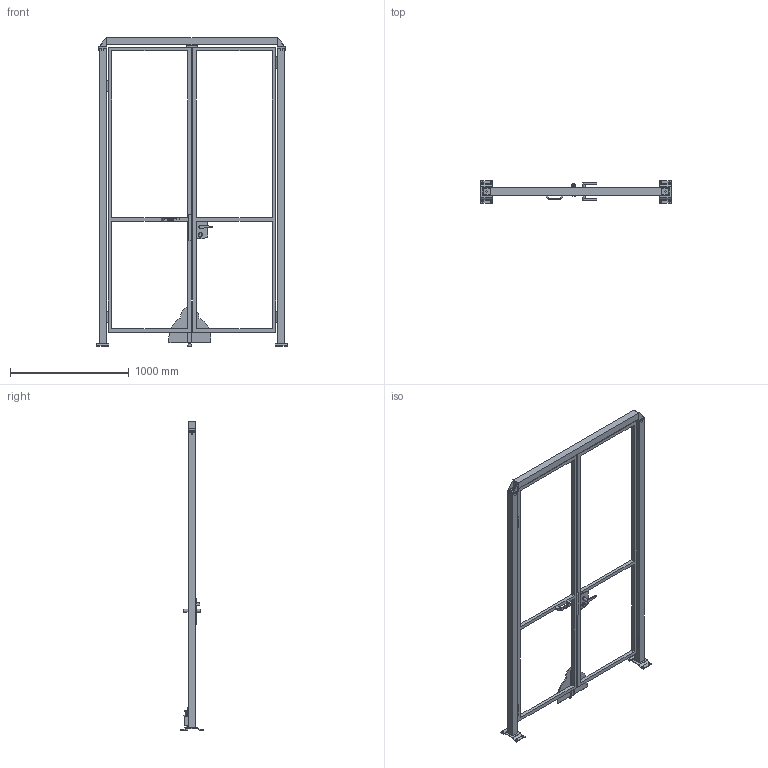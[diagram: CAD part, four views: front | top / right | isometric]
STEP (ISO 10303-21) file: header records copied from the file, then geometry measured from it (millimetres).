
FILE_DESCRIPTION(/* description */ (''),/* implementation_level */ '2;1');
FILE_NAME(/* name */ 'C:\SafeGuarding\ELABORATI\VZOR§GAMMA_2025-02-03-12-34-04.stp',/* time_stamp */ '2025-02-03T12:34:06+01:00',/* author */ ('admin'),/* organization */ (''),/* preprocessor_version */ 'ST-DEVELOPER v18.1',/* originating_system */ 'AutoCAD Mechanical',/* authorisation */ '');
FILE_SCHEMA (('AUTOMOTIVE_DESIGN { 1 0 10303 214 3 1 1 }'));
Length unit declared in the file: millimetre
Products named in the file (5): Product; *U4; DATI_PORTA; P_VFMA.ME60SDU.2520; VFPA.REPE30.07002400
Assembly tree (6 placements, depth 2):
  Product
    VFPA.REPE30.07002400  x2
    P_VFMA.ME60SDU.2520  x2
    *U4
    DATI_PORTA
Bounding box: 1605 x 192 x 2600.5 mm (x, y, z)
Volume: 37108696.5 mm3; surface area: 3816286.9 mm2
Topology: 30 solids, 41 shells, 397 faces, 1275 edges, 1182 vertices
Faces by surface type: plane 321, cylinder 71, bspline 4, cone 1
Full cylindrical faces by diameter (mm): 11 x25, 14 x2, 24 x1, 25 x2, 25.398 x2
Entity records: 12876 total; most frequent: CARTESIAN_POINT 3717, DIRECTION 1792, ORIENTED_EDGE 1640, EDGE_CURVE 869, LINE 730, VECTOR 730, VERTEX_POINT 616, AXIS2_PLACEMENT_3D 531
